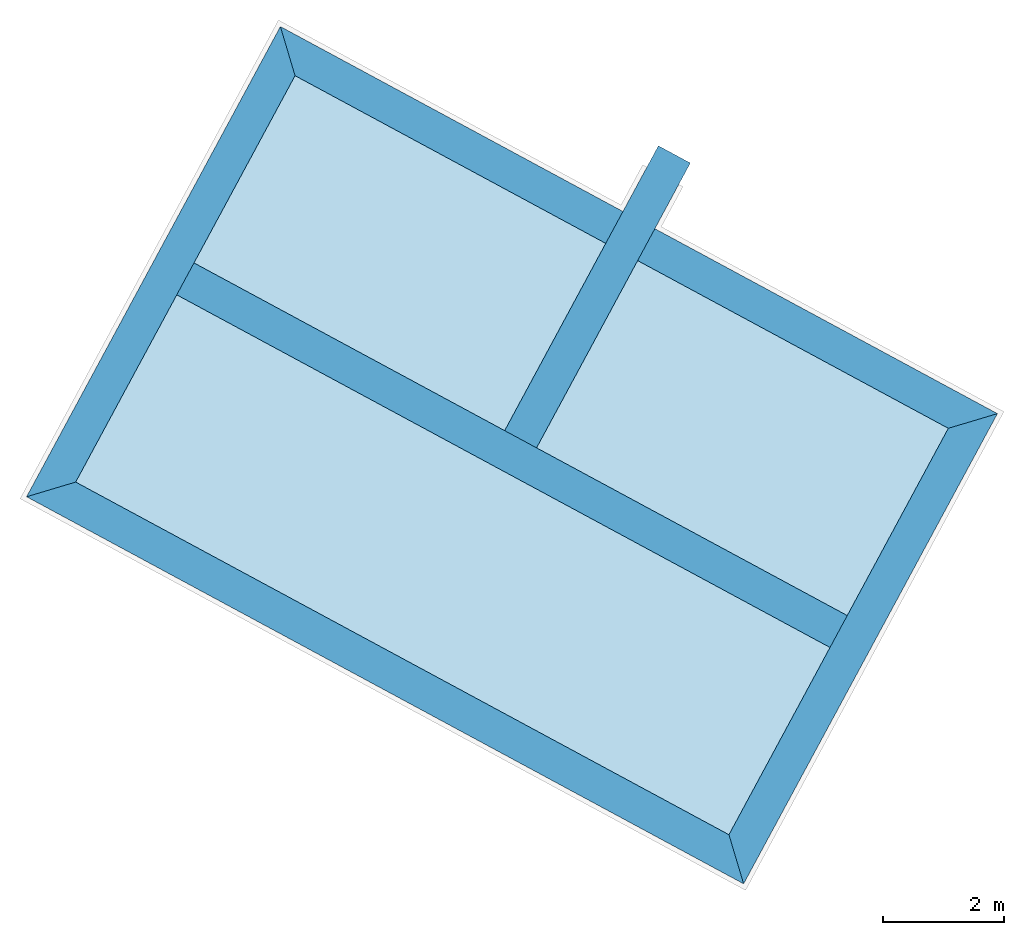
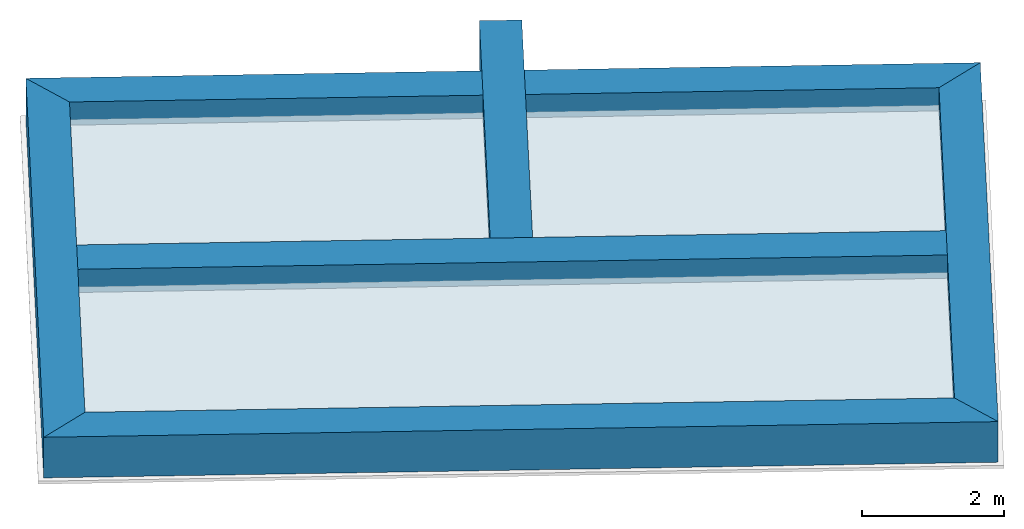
# One storey, part 1 of 3: 9 footings.
"""IFC2X3 building model written with IfcOpenShell, lengths in metres."""

from ifc_helpers import new_model, entity, si_unit, converted_unit, derived_unit, money_unit, direction, frame, origin_with_axes, place, context, subcontext, project, spatial, polyline, outline, extrude, faceted_brep, material, element, save


model = new_model("IFC2X3")

# Units and contexts
model_context = context("Model", 3, precision=1e-05, world=origin_with_axes(), true_north=direction((0.0, 1.0)))
body_context = subcontext(model_context, "Body", "Model", "MODEL_VIEW")
ifc_project = project(units=[si_unit("LENGTHUNIT", "METRE"), si_unit("AREAUNIT", "SQUARE_METRE"), si_unit("VOLUMEUNIT", "CUBIC_METRE"), converted_unit("PLANEANGLEUNIT", "DEGREE", entity("IfcPlaneAngleMeasure", 0.0174532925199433), si_unit("PLANEANGLEUNIT", "RADIAN"), dimensions=[0, 0, 0, 0, 0, 0, 0]), money_unit("EUR"), converted_unit("TIMEUNIT", "Year", entity("IfcTimeMeasure", 31556926.0), si_unit("TIMEUNIT", "SECOND"), dimensions=[0, 0, 1, 0, 0, 0, 0]), si_unit("MASSUNIT", "GRAM", prefix="KILO"), si_unit("THERMODYNAMICTEMPERATUREUNIT", "DEGREE_CELSIUS"), si_unit("LUMINOUSINTENSITYUNIT", "LUMEN"), si_unit("ENERGYUNIT", "JOULE", prefix="MEGA"), derived_unit("THERMALCONDUCTANCEUNIT", [(si_unit("POWERUNIT", "WATT"), 1), (si_unit("LENGTHUNIT", "METRE"), -1), (si_unit("THERMODYNAMICTEMPERATUREUNIT", "KELVIN"), -1)]), derived_unit("SPECIFICHEATCAPACITYUNIT", [(si_unit("ENERGYUNIT", "JOULE"), 1), (si_unit("MASSUNIT", "GRAM", prefix="KILO"), -1), (si_unit("THERMODYNAMICTEMPERATUREUNIT", "KELVIN"), -1)]), derived_unit("MASSDENSITYUNIT", [(si_unit("MASSUNIT", "GRAM", prefix="KILO"), 1), (si_unit("VOLUMEUNIT", "CUBIC_METRE"), -1)])], contexts=[model_context])

# Site, building, storey
site_placement = place(None, frame((-3.949935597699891, 1.740105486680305, 0.0), z_axis=(0.0, 0.0, 1.0), x_axis=(0.8799804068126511, -0.475009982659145, 0.0)))
site = spatial("IfcSite", under=ifc_project, at=site_placement, Name="Gelände", CompositionType="ELEMENT")
building_placement = place(site_placement, origin_with_axes())
building = spatial("IfcBuilding", under=site, at=building_placement, Name="Gebäude", CompositionType="ELEMENT")
storey_placement = place(building_placement, frame((0.0, 0.0, -3.68), z_axis=(0.0, 0.0, 1.0), x_axis=(1.0, 0.0, 0.0)))
storey = spatial("IfcBuildingStorey", under=building, at=storey_placement, Name="Gründung", CompositionType="ELEMENT", Elevation=-3.68)

# Footings
ifc_material_1 = material(Name="_SIWH - Beton, Stahlbeton")
footing_1_placement = place(storey_placement, frame((10.77500603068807, 14.92906048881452, 0.3500000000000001), z_axis=(0.0, 0.0, 1.0), x_axis=(1.0, 0.0, 0.0)))
element("IfcFooting", 1, at=footing_1_placement, inside=storey, material=ifc_material_1, Name="Unterzug-014", PredefinedType="NOTDEFINED", context=body_context, shape_type="Brep", body=[
    faceted_brep([(-0.3000000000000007, 5.656215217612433, 0.3500000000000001), (-0.3000000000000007, 0.3000000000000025, 0.3500000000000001), (0.3000000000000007, 0.3000000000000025, 0.3500000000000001), (0.3000000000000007, 5.656215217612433, 0.3500000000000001), (-0.3000000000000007, 5.656215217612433, -0.3500000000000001), (-0.3000000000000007, 0.3000000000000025, -0.3500000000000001), (0.2999999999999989, 0.3000000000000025, -0.3500000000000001), (0.3000000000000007, 5.656215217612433, -0.3500000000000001)], [[[0, 1, 2, 3]], [[4, 5, 1, 0]], [[5, 6, 2, 1]], [[3, 2, 6, 7]], [[0, 3, 7, 4]], [[7, 6, 5, 4]]]),
])
footing_2_placement = place(storey_placement, frame((4.332528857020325, 10.80780061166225, 0.3500000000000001), z_axis=(0.0, 0.0, 1.0), x_axis=(0.0, -1.0, 0.0)))
element("IfcFooting", 2, at=footing_2_placement, inside=storey, material=ifc_material_1, Name="Unterzug-014", PredefinedType="NOTDEFINED", context=body_context, shape_type="Brep", body=[
    faceted_brep([(-0.3000000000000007, 0.2999999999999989, -0.3500000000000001), (-0.3000000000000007, 12.5849543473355, -0.3500000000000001), (0.2999999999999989, 13.18495434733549, -0.3500000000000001), (0.3000000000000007, -0.2999999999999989, -0.3500000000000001), (-0.3000000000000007, 0.2999999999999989, 0.3500000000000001), (-0.3000000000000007, 12.5849543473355, 0.3500000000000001), (0.2999999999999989, 13.18495434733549, 0.3500000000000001), (0.3000000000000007, -0.2999999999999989, 0.3500000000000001)], [[[0, 1, 2, 3]], [[4, 5, 1, 0]], [[2, 1, 5, 6]], [[3, 2, 6, 7]], [[4, 0, 3, 7]], [[7, 6, 5, 4]]]),
])
footing_3_placement = place(storey_placement, frame((4.332528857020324, 14.92906048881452, 0.3500000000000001), z_axis=(0.0, 0.0, 1.0), x_axis=(0.0, -1.0, 0.0)))
element("IfcFooting", 3, at=footing_3_placement, inside=storey, material=ifc_material_1, Name="Unterzug-014", PredefinedType="NOTDEFINED", context=body_context, shape_type="Brep", body=[
    faceted_brep([(-0.3000000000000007, 12.5849543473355, -0.3500000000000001), (-0.3000000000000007, 0.2999999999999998, -0.3500000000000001), (-0.3000000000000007, 0.3000000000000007, 0.3500000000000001), (-0.3000000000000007, 12.5849543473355, 0.3500000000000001), (0.2999999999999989, 12.5849543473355, -0.3500000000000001), (0.3000000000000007, 0.2999999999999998, -0.3500000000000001), (0.3000000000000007, 0.3000000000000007, 0.3500000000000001), (0.2999999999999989, 12.5849543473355, 0.3500000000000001)], [[[0, 1, 2, 3]], [[4, 5, 1, 0]], [[5, 6, 2, 1]], [[3, 2, 6, 7]], [[7, 4, 0, 3]], [[7, 6, 5, 4]]]),
])
footing_4_placement = place(storey_placement, frame((4.332528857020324, 19.0503203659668, 0.3500000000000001), z_axis=(0.0, 0.0, 1.0), x_axis=(-1.0, 0.0, 0.0)))
element("IfcFooting", 4, at=footing_4_placement, inside=storey, material=ifc_material_1, Name="Unterzug-014", PredefinedType="NOTDEFINED", context=body_context, shape_type="Brep", body=[
    faceted_brep([(-0.2999999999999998, 0.3000000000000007, -0.3500000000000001), (-0.2999999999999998, 7.942519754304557, -0.3500000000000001), (0.2999999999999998, 8.542519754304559, -0.3500000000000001), (0.2999999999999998, -0.3000000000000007, -0.3500000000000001), (-0.2999999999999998, 0.3000000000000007, 0.3500000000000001), (-0.2999999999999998, 7.942519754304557, 0.3500000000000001), (0.2999999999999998, 8.542519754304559, 0.3500000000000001), (0.2999999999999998, -0.3000000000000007, 0.3500000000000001)], [[[0, 1, 2, 3]], [[4, 5, 1, 0]], [[2, 1, 5, 6]], [[3, 2, 6, 7]], [[4, 0, 3, 7]], [[7, 6, 5, 4]]]),
])
footing_5_placement = place(storey_placement, frame((4.332528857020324, 19.0503203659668, 0.3500000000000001), z_axis=(0.0, 0.0, 1.0), x_axis=(0.0, -1.0, 0.0)))
element("IfcFooting", 5, at=footing_5_placement, inside=storey, material=ifc_material_1, Name="Unterzug-014", PredefinedType="NOTDEFINED", context=body_context, shape_type="Brep", body=[
    faceted_brep([(0.3000000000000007, 0.2999999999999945, 0.3500000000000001), (0.3000000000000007, 6.142477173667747, 0.3500000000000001), (-0.3000000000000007, 6.142477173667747, 0.3500000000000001), (-0.3000000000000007, -0.3000000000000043, 0.3500000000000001), (0.3000000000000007, 0.2999999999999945, -0.3500000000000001), (0.3000000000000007, 6.142477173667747, -0.3500000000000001), (-0.3000000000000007, 6.142477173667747, -0.3500000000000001), (-0.3000000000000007, -0.3000000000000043, -0.3500000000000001)], [[[0, 1, 2, 3]], [[4, 5, 1, 0]], [[5, 6, 2, 1]], [[3, 2, 6, 7]], [[0, 3, 7, 4]], [[7, 6, 5, 4]]]),
    faceted_brep([(-0.3000000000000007, 13.18495434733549, -0.3500000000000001), (-0.3000000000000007, 6.742477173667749, -0.3500000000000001), (-0.3000000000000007, 6.742477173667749, 0.3500000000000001), (-0.3000000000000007, 13.18495434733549, 0.3500000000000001), (0.3000000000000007, 12.5849543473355, -0.3500000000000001), (0.3000000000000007, 6.742477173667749, -0.3500000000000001), (0.3000000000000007, 6.742477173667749, 0.3500000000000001), (0.3000000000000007, 12.5849543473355, 0.3500000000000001)], [[[0, 1, 2, 3]], [[4, 5, 1, 0]], [[5, 6, 2, 1]], [[3, 2, 6, 7]], [[7, 4, 0, 3]], [[7, 6, 5, 4]]]),
])
footing_6_placement = place(storey_placement, frame((17.21748320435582, 10.80780061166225, 0.3500000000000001), z_axis=(0.0, 0.0, 1.0), x_axis=(1.0, 0.0, 0.0)))
element("IfcFooting", 6, at=footing_6_placement, inside=storey, material=ifc_material_1, Name="Unterzug-014", PredefinedType="NOTDEFINED", context=body_context, shape_type="Brep", body=[
    faceted_brep([(-0.3000000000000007, 0.3000000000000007, -0.3500000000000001), (-0.3000000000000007, 7.942519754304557, -0.3500000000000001), (0.3000000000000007, 8.542519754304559, -0.3500000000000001), (0.3000000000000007, -0.3000000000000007, -0.3500000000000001), (-0.3000000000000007, 0.3000000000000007, 0.3500000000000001), (-0.3000000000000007, 7.942519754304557, 0.3500000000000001), (0.3000000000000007, 8.542519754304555, 0.3500000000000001), (0.3000000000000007, -0.3000000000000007, 0.3500000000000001)], [[[0, 1, 2, 3]], [[4, 5, 1, 0]], [[2, 1, 5, 6]], [[3, 2, 6, 7]], [[4, 0, 3, 7]], [[7, 6, 5, 4]]]),
])
ifc_material_2 = material(Name="Beton, unbewehrt")
footing_7_placement = place(storey_placement, frame((4.632528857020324, 15.22906061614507, 0.2999999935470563), z_axis=(0.0, 0.0, 1.0), x_axis=(1.0, 0.0, 0.0)))
element("IfcFooting", 7, at=footing_7_placement, inside=storey, material=ifc_material_2, Name="Decke037", PredefinedType="NOTDEFINED", context=body_context, shape_type="SweptSolid", body=[
    extrude(outline(polyline([(0.0, 0.0), (5.842477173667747, 0.0), (5.842477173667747, 3.521259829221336), (0.0, 3.521259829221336), (0.0, 0.0)])), frame((0.0, 0.0, -0.05), z_axis=(0.0, 0.0, 1.0), x_axis=(1.0, 0.0, 0.0)), (0.0, 0.0, 1.0), 0.05),
])
footing_8_placement = place(storey_placement, frame((4.632528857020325, 11.1078007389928, 0.2999999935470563), z_axis=(0.0, 0.0, 1.0), x_axis=(1.0, 0.0, 0.0)))
element("IfcFooting", 8, at=footing_8_placement, inside=storey, material=ifc_material_2, Name="Decke038", PredefinedType="NOTDEFINED", context=body_context, shape_type="SweptSolid", body=[
    extrude(outline(polyline([(0.0, 0.0), (12.2849543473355, 0.0), (12.2849543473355, 3.521259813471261), (0.0, 3.521259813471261), (0.0, 0.0)])), frame((0.0, 0.0, -0.05), z_axis=(0.0, 0.0, 1.0), x_axis=(1.0, 0.0, 0.0)), (0.0, 0.0, 1.0), 0.05),
])
footing_9_placement = place(storey_placement, frame((11.0750060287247, 15.22906056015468, 0.2999999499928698), z_axis=(0.0, 0.0, 1.0), x_axis=(1.0, 0.0, 0.0)))
element("IfcFooting", 9, at=footing_9_placement, inside=storey, material=ifc_material_2, Name="Decke036", PredefinedType="NOTDEFINED", context=body_context, shape_type="SweptSolid", body=[
    extrude(outline(polyline([(0.0, 0.0), (5.842477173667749, 0.0), (5.842477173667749, 3.521259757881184), (0.0, 3.521259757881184), (0.0, 0.0)])), frame((0.0, 0.0, -0.05), z_axis=(0.0, 0.0, 1.0), x_axis=(1.0, 0.0, 0.0)), (0.0, 0.0, 1.0), 0.05),
])

save(model, "model.ifc")
